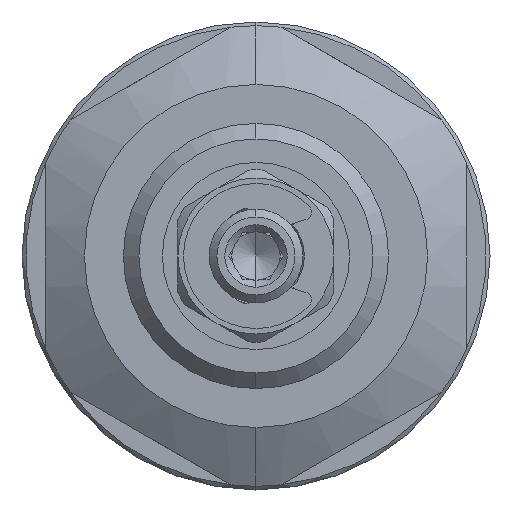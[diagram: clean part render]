
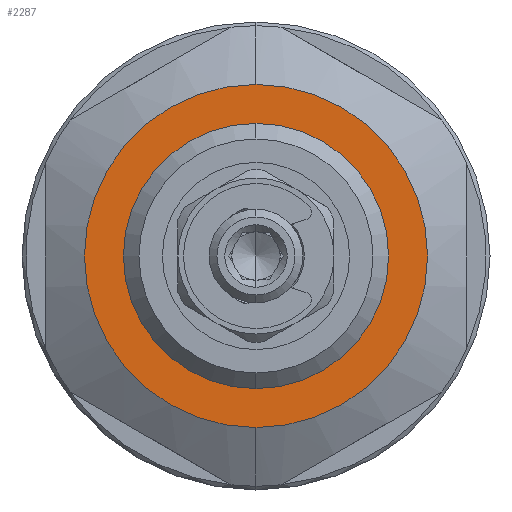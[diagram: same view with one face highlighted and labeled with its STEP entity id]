
A CAD part, left-side view. The second image highlights one B-rep face of the part: STEP entity #2287.
In plain terms, the highlighted planar face has unit normal (-1, 0, 0).
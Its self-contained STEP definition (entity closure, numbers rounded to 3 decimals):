
#376 = AXIS2_PLACEMENT_3D ( 'NONE', #16327, #8558, #694 ) ;
#433 = ORIENTED_EDGE ( 'NONE', *, *, #3073, .T. ) ;
#692 = EDGE_CURVE ( 'NONE', #16330, #1374, #6348, .T. ) ;
#694 = DIRECTION ( 'NONE',  ( 0., 0., 1. ) ) ;
#1368 = CIRCLE ( 'NONE', #15280, 8.5 ) ;
#1374 = VERTEX_POINT ( 'NONE', #8996 ) ;
#1727 = AXIS2_PLACEMENT_3D ( 'NONE', #13580, #8505, #13708 ) ;
#1948 = EDGE_CURVE ( 'NONE', #1374, #16330, #1368, .T. ) ;
#2287 = ADVANCED_FACE ( 'NONE', ( #11785, #5247 ), #7266, .T. ) ;
#2512 = VERTEX_POINT ( 'NONE', #12983 ) ;
#3073 = EDGE_CURVE ( 'NONE', #2512, #7842, #15146, .T. ) ;
#3599 = DIRECTION ( 'NONE',  ( 0., 0., 1. ) ) ;
#3609 = CARTESIAN_POINT ( 'NONE',  ( 13.9, 0., 11. ) ) ;
#4734 = ORIENTED_EDGE ( 'NONE', *, *, #1948, .F. ) ;
#4932 = CARTESIAN_POINT ( 'NONE',  ( 13.9, 0., 0. ) ) ;
#5247 = FACE_BOUND ( 'NONE', #12217, .T. ) ;
#5509 = CIRCLE ( 'NONE', #7456, 11. ) ;
#6225 = ORIENTED_EDGE ( 'NONE', *, *, #10977, .T. ) ;
#6348 = CIRCLE ( 'NONE', #11765, 8.5 ) ;
#7266 = PLANE ( 'NONE',  #1727 ) ;
#7376 = DIRECTION ( 'NONE',  ( -1., 0., 0. ) ) ;
#7456 = AXIS2_PLACEMENT_3D ( 'NONE', #15180, #7376, #16450 ) ;
#7842 = VERTEX_POINT ( 'NONE', #3609 ) ;
#8505 = DIRECTION ( 'NONE',  ( -1., 0., 0. ) ) ;
#8558 = DIRECTION ( 'NONE',  ( -1., 0., 0. ) ) ;
#8996 = CARTESIAN_POINT ( 'NONE',  ( 13.9, 0., -8.5 ) ) ;
#10977 = EDGE_CURVE ( 'NONE', #7842, #2512, #5509, .T. ) ;
#11078 = EDGE_LOOP ( 'NONE', ( #433, #6225 ) ) ;
#11765 = AXIS2_PLACEMENT_3D ( 'NONE', #14752, #13435, #12138 ) ;
#11785 = FACE_OUTER_BOUND ( 'NONE', #11078, .T. ) ;
#12138 = DIRECTION ( 'NONE',  ( 0., 0., 1. ) ) ;
#12217 = EDGE_LOOP ( 'NONE', ( #15705, #4734 ) ) ;
#12361 = CARTESIAN_POINT ( 'NONE',  ( 13.9, 0., 8.5 ) ) ;
#12740 = DIRECTION ( 'NONE',  ( -1., 0., 0. ) ) ;
#12983 = CARTESIAN_POINT ( 'NONE',  ( 13.9, 0., -11. ) ) ;
#13435 = DIRECTION ( 'NONE',  ( -1., 0., 0. ) ) ;
#13580 = CARTESIAN_POINT ( 'NONE',  ( 13.9, 8.5, 0. ) ) ;
#13708 = DIRECTION ( 'NONE',  ( 0., 0., 1. ) ) ;
#14752 = CARTESIAN_POINT ( 'NONE',  ( 13.9, 0., 0. ) ) ;
#15146 = CIRCLE ( 'NONE', #376, 11. ) ;
#15180 = CARTESIAN_POINT ( 'NONE',  ( 13.9, 0., 0. ) ) ;
#15280 = AXIS2_PLACEMENT_3D ( 'NONE', #4932, #12740, #3599 ) ;
#15705 = ORIENTED_EDGE ( 'NONE', *, *, #692, .F. ) ;
#16327 = CARTESIAN_POINT ( 'NONE',  ( 13.9, 0., 0. ) ) ;
#16330 = VERTEX_POINT ( 'NONE', #12361 ) ;
#16450 = DIRECTION ( 'NONE',  ( 0., 0., 1. ) ) ;
